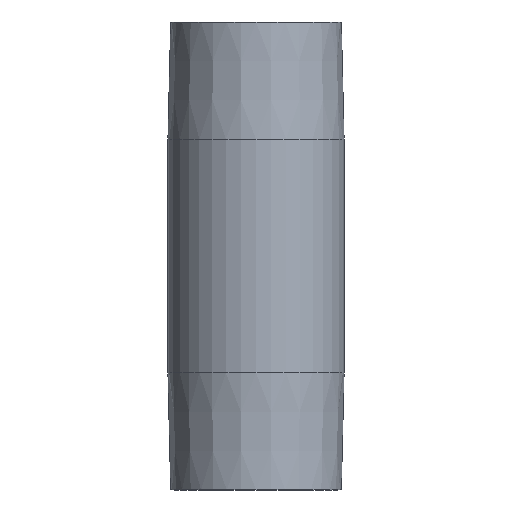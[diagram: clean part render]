
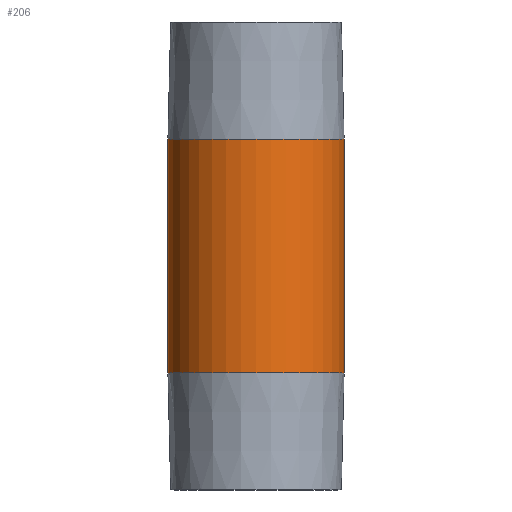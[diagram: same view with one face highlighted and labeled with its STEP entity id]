
A CAD part, front view. The second image highlights one B-rep face of the part: STEP entity #206.
In plain terms, the highlighted cylindrical face has radius 16 mm (diameter 32 mm), a partial arc.
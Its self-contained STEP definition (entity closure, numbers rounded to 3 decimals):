
#4 = DIRECTION ( 'NONE',  ( 1., 0., 0. ) ) ;
#12 = VERTEX_POINT ( 'NONE', #435 ) ;
#16 = DIRECTION ( 'NONE',  ( 0., 0., -1. ) ) ;
#19 = CARTESIAN_POINT ( 'NONE',  ( -16., 0., -21.25 ) ) ;
#27 = AXIS2_PLACEMENT_3D ( 'NONE', #91, #16, #262 ) ;
#46 = CARTESIAN_POINT ( 'NONE',  ( 0., 0., 21.25 ) ) ;
#63 = DIRECTION ( 'NONE',  ( 0., 0., -1. ) ) ;
#91 = CARTESIAN_POINT ( 'NONE',  ( 0., 0., 42.5 ) ) ;
#98 = CARTESIAN_POINT ( 'NONE',  ( 0., 0., -21.25 ) ) ;
#104 = CIRCLE ( 'NONE', #123, 16. ) ;
#123 = AXIS2_PLACEMENT_3D ( 'NONE', #46, #288, #4 ) ;
#127 = EDGE_CURVE ( 'NONE', #163, #182, #247, .T. ) ;
#153 = VERTEX_POINT ( 'NONE', #383 ) ;
#158 = FACE_OUTER_BOUND ( 'NONE', #382, .T. ) ;
#163 = VERTEX_POINT ( 'NONE', #267 ) ;
#182 = VERTEX_POINT ( 'NONE', #19 ) ;
#189 = CIRCLE ( 'NONE', #403, 16. ) ;
#206 = ADVANCED_FACE ( 'NONE', ( #158 ), #399, .T. ) ;
#207 = ORIENTED_EDGE ( 'NONE', *, *, #127, .T. ) ;
#247 = LINE ( 'NONE', #460, #283 ) ;
#262 = DIRECTION ( 'NONE',  ( -1., 0., 0. ) ) ;
#267 = CARTESIAN_POINT ( 'NONE',  ( -16., 0., 21.25 ) ) ;
#283 = VECTOR ( 'NONE', #356, 1000. ) ;
#288 = DIRECTION ( 'NONE',  ( 0., 0., 1. ) ) ;
#294 = ORIENTED_EDGE ( 'NONE', *, *, #434, .F. ) ;
#312 = ORIENTED_EDGE ( 'NONE', *, *, #427, .T. ) ;
#327 = LINE ( 'NONE', #352, #430 ) ;
#348 = DIRECTION ( 'NONE',  ( 1., 0., 0. ) ) ;
#352 = CARTESIAN_POINT ( 'NONE',  ( 16., 0., 42.5 ) ) ;
#354 = DIRECTION ( 'NONE',  ( 0., 0., 1. ) ) ;
#356 = DIRECTION ( 'NONE',  ( 0., 0., -1. ) ) ;
#360 = ORIENTED_EDGE ( 'NONE', *, *, #414, .F. ) ;
#382 = EDGE_LOOP ( 'NONE', ( #360, #294, #207, #312 ) ) ;
#383 = CARTESIAN_POINT ( 'NONE',  ( 16., 0., -21.25 ) ) ;
#399 = CYLINDRICAL_SURFACE ( 'NONE', #27, 16. ) ;
#403 = AXIS2_PLACEMENT_3D ( 'NONE', #98, #354, #348 ) ;
#414 = EDGE_CURVE ( 'NONE', #12, #153, #327, .T. ) ;
#427 = EDGE_CURVE ( 'NONE', #182, #153, #189, .T. ) ;
#430 = VECTOR ( 'NONE', #63, 1000. ) ;
#434 = EDGE_CURVE ( 'NONE', #163, #12, #104, .T. ) ;
#435 = CARTESIAN_POINT ( 'NONE',  ( 16., 0., 21.25 ) ) ;
#460 = CARTESIAN_POINT ( 'NONE',  ( -16., 0., 42.5 ) ) ;
